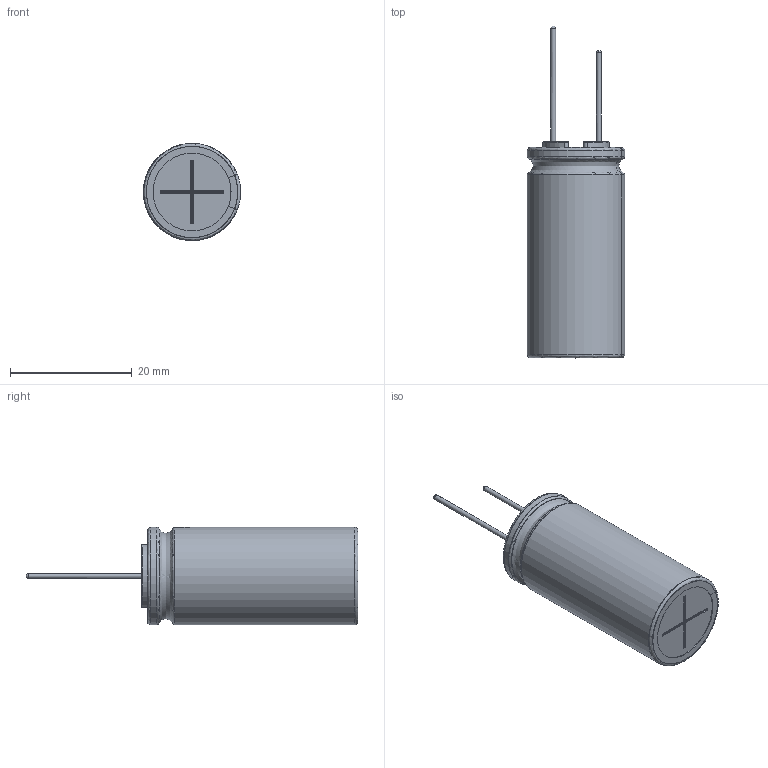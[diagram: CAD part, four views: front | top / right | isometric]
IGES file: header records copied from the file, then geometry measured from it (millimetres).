
Start section: JAMA-IS VERSION  1.0
Bounding box: 15.98 x 54.5 x 16 mm (x, y, z)
Surface area: 6027.9 mm2 (no closed solid volume)
Topology: 0 solids, 0 shells, 132 faces, 1511 edges, 1492 vertices
Faces by surface type: bspline 132
